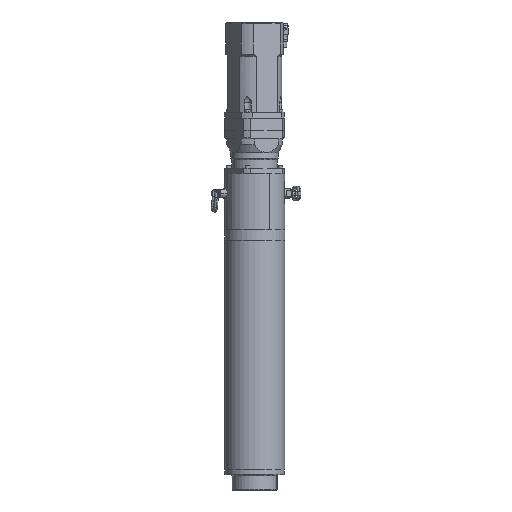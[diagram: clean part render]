
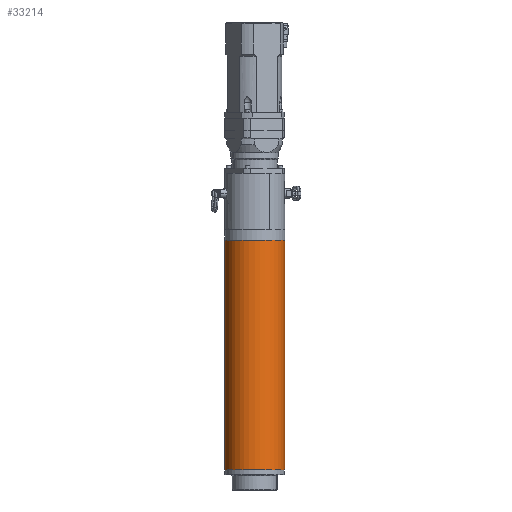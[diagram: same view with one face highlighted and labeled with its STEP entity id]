
A CAD part, front view. The second image highlights one B-rep face of the part: STEP entity #33214.
In plain terms, the highlighted cylindrical face has radius 120 mm (diameter 240 mm), a partial arc.
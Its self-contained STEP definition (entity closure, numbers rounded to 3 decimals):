
#1637 = EDGE_CURVE ( 'NONE', #14628, #22625, #36862, .T. ) ;
#1797 = DIRECTION ( 'NONE',  ( -1., 0., 0. ) ) ;
#4271 = CARTESIAN_POINT ( 'NONE',  ( 120., 0., 936.5 ) ) ;
#8102 = VERTEX_POINT ( 'NONE', #27182 ) ;
#10710 = FACE_OUTER_BOUND ( 'NONE', #37241, .T. ) ;
#13209 = EDGE_CURVE ( 'NONE', #8102, #22625, #26523, .T. ) ;
#14628 = VERTEX_POINT ( 'NONE', #39076 ) ;
#15879 = CYLINDRICAL_SURFACE ( 'NONE', #44463, 120. ) ;
#18821 = LINE ( 'NONE', #24338, #56174 ) ;
#19211 = AXIS2_PLACEMENT_3D ( 'NONE', #47867, #24439, #1797 ) ;
#19304 = AXIS2_PLACEMENT_3D ( 'NONE', #58528, #49948, #45020 ) ;
#19445 = ORIENTED_EDGE ( 'NONE', *, *, #30613, .T. ) ;
#19702 = CARTESIAN_POINT ( 'NONE',  ( -120., 0., 20. ) ) ;
#19918 = VERTEX_POINT ( 'NONE', #4271 ) ;
#20633 = ORIENTED_EDGE ( 'NONE', *, *, #49809, .F. ) ;
#21610 = CARTESIAN_POINT ( 'NONE',  ( -120., 0., 0. ) ) ;
#21921 = DIRECTION ( 'NONE',  ( 0., 0., -1. ) ) ;
#22625 = VERTEX_POINT ( 'NONE', #19702 ) ;
#24338 = CARTESIAN_POINT ( 'NONE',  ( 120., 0., 0. ) ) ;
#24439 = DIRECTION ( 'NONE',  ( 0., 0., -1. ) ) ;
#24511 = DIRECTION ( 'NONE',  ( 0., 0., -1. ) ) ;
#26523 = LINE ( 'NONE', #21610, #31641 ) ;
#27182 = CARTESIAN_POINT ( 'NONE',  ( -120., 0., 936.5 ) ) ;
#28002 = ORIENTED_EDGE ( 'NONE', *, *, #1637, .F. ) ;
#29167 = CARTESIAN_POINT ( 'NONE',  ( 0., 0., 0. ) ) ;
#30362 = DIRECTION ( 'NONE',  ( -1., 0., 0. ) ) ;
#30613 = EDGE_CURVE ( 'NONE', #19918, #8102, #30943, .T. ) ;
#30943 = CIRCLE ( 'NONE', #19304, 120. ) ;
#31641 = VECTOR ( 'NONE', #21921, 1000. ) ;
#33214 = ADVANCED_FACE ( 'NONE', ( #10710 ), #15879, .T. ) ;
#33917 = DIRECTION ( 'NONE',  ( 0., 0., -1. ) ) ;
#36862 = CIRCLE ( 'NONE', #19211, 120. ) ;
#37241 = EDGE_LOOP ( 'NONE', ( #20633, #19445, #55683, #28002 ) ) ;
#39076 = CARTESIAN_POINT ( 'NONE',  ( 120., 0., 20. ) ) ;
#44463 = AXIS2_PLACEMENT_3D ( 'NONE', #29167, #24511, #30362 ) ;
#45020 = DIRECTION ( 'NONE',  ( -1., 0., 0. ) ) ;
#47867 = CARTESIAN_POINT ( 'NONE',  ( 0., 0., 20. ) ) ;
#49809 = EDGE_CURVE ( 'NONE', #19918, #14628, #18821, .T. ) ;
#49948 = DIRECTION ( 'NONE',  ( 0., 0., -1. ) ) ;
#55683 = ORIENTED_EDGE ( 'NONE', *, *, #13209, .T. ) ;
#56174 = VECTOR ( 'NONE', #33917, 1000. ) ;
#58528 = CARTESIAN_POINT ( 'NONE',  ( 0., 0., 936.5 ) ) ;
